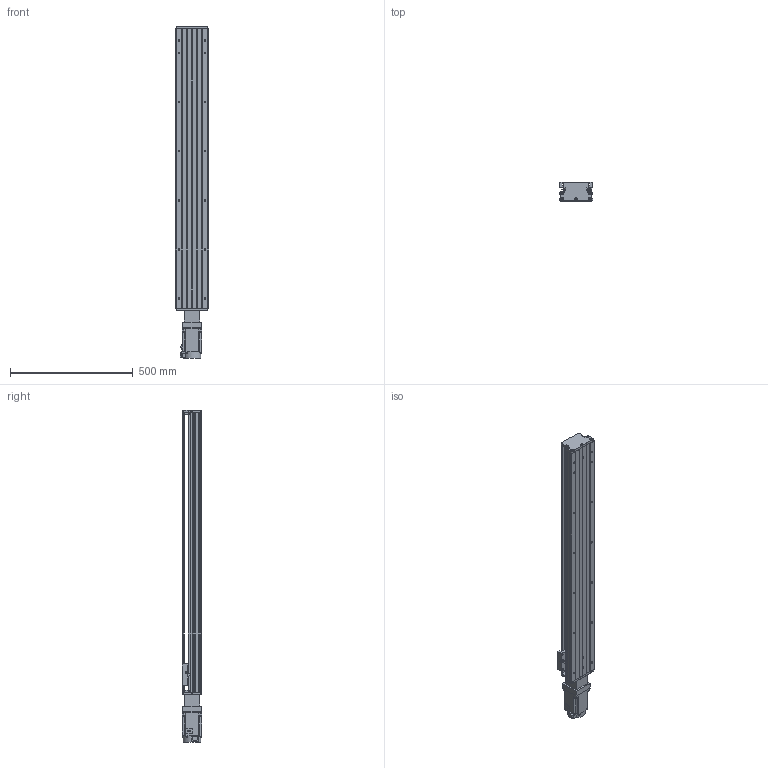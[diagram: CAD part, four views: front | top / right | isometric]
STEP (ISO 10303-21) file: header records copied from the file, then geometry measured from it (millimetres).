
FILE_DESCRIPTION (( 'STEP AP203' ), '1' );
FILE_NAME ('KTH130-1000-BC-M75-C4.step', '2023-06-30T04:16:08', ( '微软用户' ), ( '微软中国' ), 'SwSTEP 2.0', 'SolidWorks 2020', '' );
FILE_SCHEMA (( 'CONFIG_CONTROL_DESIGN' ));
Length unit declared in the file: millimetre
Products named in the file (19): KTH130-002_KTH130-002; EE_SX911P_R; CTHA86-013; KTH130-004; CTHA60-016; CTHA86-027-1; KTH130-005; GBT 70.1-M3℅5; hg-kn73j_-s100; GB1155-6X6; GBT77-2000 M3×3; KTH130-1000-BC-M75-C4; GBT70.1 M5℅16; す晦芛蹟隊 M3℅5; GBT 70.2-M3¡Á5_M3¡Á6; GBT 70.3-M3℅8; GTH14-001_1000; CTHA60-017; CTHA86-006-1_M75
Assembly tree (52 placements, depth 2):
  KTH130-1000-BC-M75-C4
    GTH14-001_1000
    KTH130-002_KTH130-002
    KTH130-004
    KTH130-005
    GB1155-6X6  x2
    GBT70.1 M5℅16  x10
    GBT 70.2-M3¡Á5_M3¡Á6  x4
    CTHA60-017  x3
    EE_SX911P_R  x3
    CTHA60-016  x2
    GBT 70.1-M3℅5  x6
    GBT77-2000 M3×3  x6
    す晦芛蹟隊 M3℅5  x2
    GBT 70.3-M3℅8  x6
    CTHA86-006-1_M75
    CTHA86-013
    CTHA86-027-1
    hg-kn73j_-s100
Bounding box: 135 x 80.44 x 1353.2 mm (x, y, z)
Volume: 7204751 mm3; surface area: 1049819.4 mm2
Topology: 55 solids, 55 shells, 2280 faces, 5480 edges, 3415 vertices
Faces by surface type: plane 1246, cylinder 638, cone 280, torus 104, sphere 12
Entity records: 40770 total; most frequent: DIRECTION 6731, CARTESIAN_POINT 6731, ORIENTED_EDGE 6244, EDGE_CURVE 3122, AXIS2_PLACEMENT_3D 2351, LINE 2029, VECTOR 2029, VERTEX_POINT 1987
